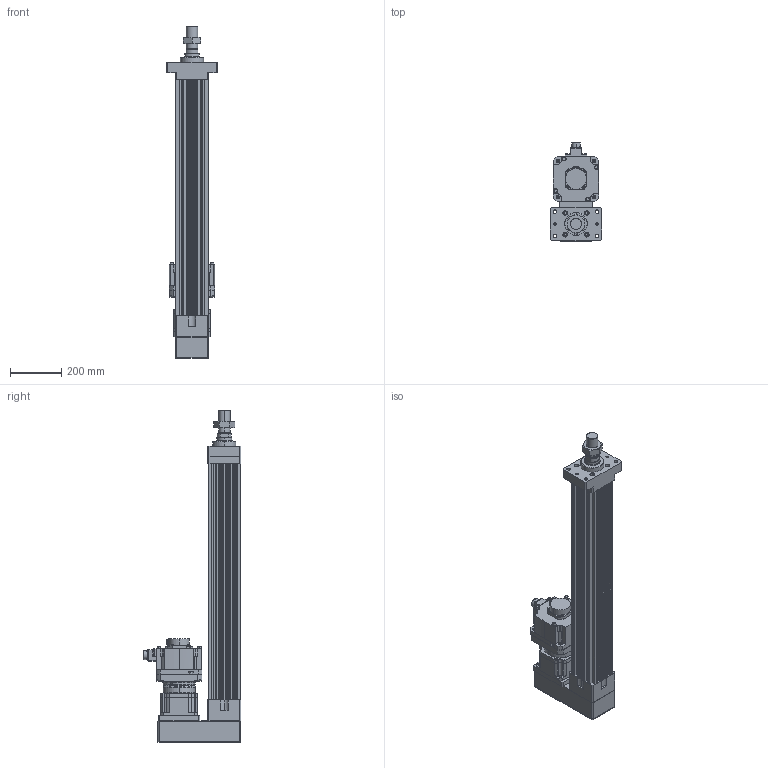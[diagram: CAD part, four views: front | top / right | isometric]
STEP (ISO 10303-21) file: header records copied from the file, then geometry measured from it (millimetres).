
FILE_DESCRIPTION (( 'STEP AP203' ), '1' );
FILE_NAME ('HES130FS(HS)-P700-W020G00-M-FMA.STEP', '2023-01-30T06:47:38', ( 'tms' ), ( '' ), 'SwSTEP 2.0', 'SolidWorks 2013', '' );
FILE_SCHEMA (( 'CONFIG_CONTROL_DESIGN' ));
Length unit declared in the file: millimetre
Products named in the file (9): HES130-P700-G142-FMA; HG-SR202; M45X1.5P; HES130FS(HS)-P700-W020G00-M-FMA; AB142-003[HG-SR352]; HES130 ROD M ST700; P1301500001; P0403500801; AB1421
Assembly tree (8 placements, depth 3):
  HES130FS(HS)-P700-W020G00-M-FMA
    HES130-P700-G142-FMA
    HES130 ROD M ST700
    M45X1.5P
    AB142-003[HG-SR352]
      AB1421
      P1301500001
      P0403500801
    HG-SR202
Bounding box: 200 x 381.85 x 1294 mm (x, y, z)
Volume: 16102645.1 mm3; surface area: 1960720.6 mm2
Topology: 4 solids, 18 shells, 1401 faces, 3660 edges, 2370 vertices
Faces by surface type: cylinder 643, plane 530, cone 146, bspline 76, torus 6
Entity records: 52014 total; most frequent: CARTESIAN_POINT 16222, DIRECTION 7460, ORIENTED_EDGE 7222, EDGE_CURVE 3633, AXIS2_PLACEMENT_3D 2825, VERTEX_POINT 2370, LINE 1810, VECTOR 1810
